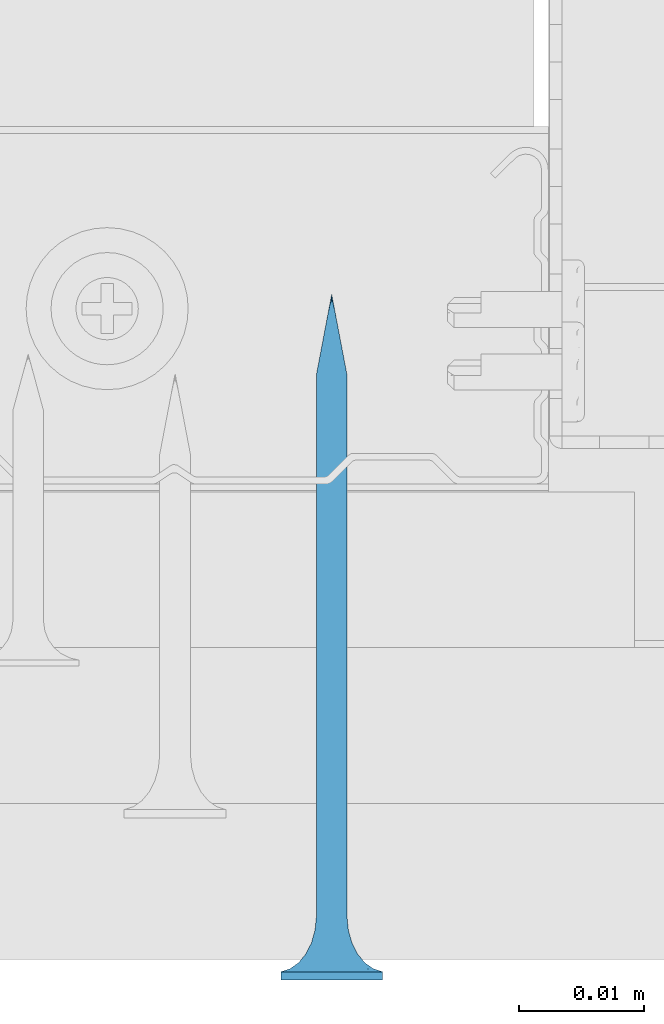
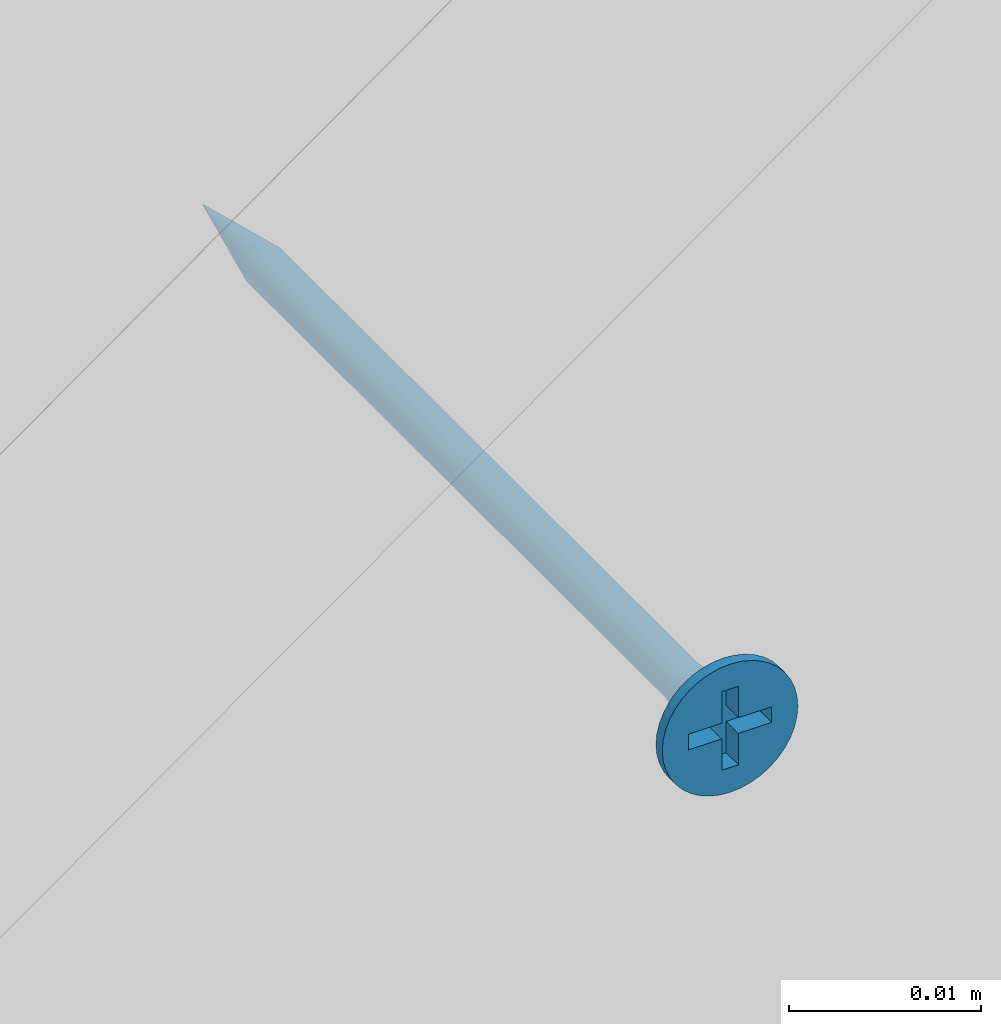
# One storey, part 37 of 48: 1 wall.
"""IFC2X3 building model written with IfcOpenShell, lengths in millimetres."""

from ifc_helpers import new_model, entity, si_unit, converted_unit, direction, frame, origin, origin_with_axes, place, context, project, spatial, faceted_brep, element, save


model = new_model("IFC2X3")

# Units and contexts
model_context = context("Model", 3, precision=1e-05, world=origin(), true_north=direction((0.0, 1.0, 0.0)))
ifc_project = project(units=[si_unit("LENGTHUNIT", "METRE", prefix="MILLI"), si_unit("AREAUNIT", "SQUARE_METRE"), si_unit("VOLUMEUNIT", "CUBIC_METRE"), converted_unit("PLANEANGLEUNIT", "DEGREE", entity("IfcPlaneAngleMeasure", 0.01745), si_unit("PLANEANGLEUNIT", "RADIAN"), dimensions=[0, 0, 0, 0, 0, 0, 0]), si_unit("SOLIDANGLEUNIT", "STERADIAN"), si_unit("MASSUNIT", "GRAM"), si_unit("TIMEUNIT", "SECOND"), si_unit("THERMODYNAMICTEMPERATUREUNIT", "DEGREE_CELSIUS"), si_unit("LUMINOUSINTENSITYUNIT", "LUMEN")], contexts=[model_context])

# Site, building, storey
site_placement = place(None, origin_with_axes())
site = spatial("IfcSite", under=ifc_project, at=site_placement, Name="Default Site", CompositionType="ELEMENT")
building_placement = place(site_placement, origin_with_axes())
building = spatial("IfcBuilding", under=site, at=building_placement, Name="Default Building", CompositionType="ELEMENT")
storey_placement = place(building_placement, origin_with_axes())
storey = spatial("IfcBuildingStorey", under=building, at=storey_placement, Name="Default Building Storey", CompositionType="ELEMENT", Elevation=0.0)

# Wall
wall_placement = place(storey_placement, frame((3284.109807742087, 6753.764107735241, 1148.30185318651), z_axis=(0.0, 0.0, -1.0), x_axis=(1.0, 4.718447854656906e-16, 0.0)))
element("IfcWall", 1, at=wall_placement, inside=storey, Name="Wkręt RIGIPS TN 55", context=model_context, shape_type="Brep", body=[
    faceted_brep([(-136.9005263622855, 4828.206294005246, 554.7035091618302), (-136.7358758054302, 4828.206294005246, 554.8044071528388), (-136.7358758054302, 4784.726408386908, 554.8044071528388), (-136.9005263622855, 4784.726408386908, 554.7035091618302), (-138.629605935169, 4828.206294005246, 556.1802826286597), (-138.629605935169, 4784.726408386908, 556.1802826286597), (-138.5557071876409, 4784.726408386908, 556.3586899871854), (-138.5557071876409, 4828.206294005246, 556.3586899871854), (-138.3293964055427, 4784.726408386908, 556.6701800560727), (-138.182556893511, 4784.726408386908, 556.7955928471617), (-138.182556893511, 4828.206294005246, 556.7955928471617), (-138.3293964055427, 4828.206294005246, 556.6701800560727), (-138.629605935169, 4828.206294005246, 555.4197173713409), (-138.629605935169, 4784.726408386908, 555.4197173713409), (-138.6746858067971, 4784.726408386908, 555.60748855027), (-138.6746858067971, 4828.206294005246, 555.60748855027), (-138.3293964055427, 4828.206294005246, 554.9298199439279), (-138.182556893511, 4828.206294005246, 554.8044071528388), (-138.182556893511, 4784.726408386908, 554.8044071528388), (-138.3293964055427, 4784.726408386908, 554.9298199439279), (-136.2888267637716, 4828.206294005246, 555.4197173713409), (-136.2888267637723, 4784.726408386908, 555.4197173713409), (-136.3627255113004, 4784.726408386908, 555.2413100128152), (-136.3627255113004, 4828.206294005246, 555.2413100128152), (-136.3627255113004, 4828.206294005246, 556.3586899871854), (-136.3627255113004, 4784.726408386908, 556.3586899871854), (-136.2888267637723, 4784.726408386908, 556.1802826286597), (-136.2888267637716, 4828.206294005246, 556.1802826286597), (-136.2437468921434, 4828.206294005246, 555.9925114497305), (-136.2437468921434, 4784.726408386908, 555.9925114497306), (-136.2285959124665, 4784.726408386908, 555.8000000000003), (-136.2285959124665, 4828.206294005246, 555.8000000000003), (-138.4548091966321, 4784.726408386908, 556.5233405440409), (-138.4548091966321, 4828.206294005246, 556.5233405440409), (-136.7358758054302, 4784.726408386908, 556.7955928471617), (-136.5890362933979, 4784.726408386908, 556.6701800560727), (-136.5890362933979, 4828.206294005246, 556.6701800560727), (-136.7358758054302, 4828.206294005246, 556.7955928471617), (-136.4636235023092, 4784.726408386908, 556.5233405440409), (-136.4636235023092, 4828.206294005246, 556.5233405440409), (-137.0789337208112, 4784.726408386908, 556.9703895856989), (-136.9005263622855, 4784.726408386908, 556.8964908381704), (-136.9005263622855, 4828.206294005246, 556.8964908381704), (-137.0789337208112, 4828.206294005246, 556.9703895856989), (-138.6746858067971, 4828.206294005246, 555.9925114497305), (-138.6746858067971, 4784.726408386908, 555.9925114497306), (-138.0179063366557, 4784.726408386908, 556.8964908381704), (-138.0179063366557, 4828.206294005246, 556.8964908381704), (-137.0789337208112, 4828.206294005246, 554.6296104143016), (-137.0789337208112, 4784.726408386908, 554.6296104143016), (-138.0179063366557, 4828.206294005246, 554.7035091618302), (-137.83949897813, 4828.206294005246, 554.6296104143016), (-137.83949897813, 4784.726408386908, 554.6296104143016), (-138.0179063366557, 4784.726408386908, 554.7035091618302), (-138.5557071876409, 4828.206294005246, 555.2413100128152), (-138.5557071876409, 4784.726408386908, 555.2413100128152), (-138.4548091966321, 4828.206294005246, 555.0766594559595), (-138.4548091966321, 4784.726408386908, 555.0766594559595), (-137.2667048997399, 4784.726408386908, 557.0154694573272), (-137.2667048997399, 4828.206294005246, 557.0154694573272), (-137.4592163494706, 4784.726408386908, 557.0306204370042), (-137.4592163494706, 4828.206294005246, 557.0306204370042), (-137.83949897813, 4784.726408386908, 556.9703895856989), (-137.83949897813, 4828.206294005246, 556.9703895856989), (-136.2437468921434, 4828.206294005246, 555.60748855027), (-136.2437468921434, 4784.726408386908, 555.60748855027), (-137.6517277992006, 4828.206294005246, 554.5845305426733), (-137.6517277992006, 4784.726408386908, 554.5845305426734), (-137.4592163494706, 4828.206294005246, 554.5693795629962), (-137.4592163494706, 4784.726408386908, 554.5693795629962), (-137.2667048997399, 4828.206294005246, 554.5845305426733), (-137.2667048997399, 4784.726408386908, 554.5845305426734), (-136.5890362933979, 4828.206294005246, 554.9298199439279), (-136.5890362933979, 4784.726408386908, 554.9298199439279), (-136.4636235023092, 4784.726408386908, 555.0766594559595), (-136.4636235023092, 4828.206294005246, 555.0766594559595), (-138.6898367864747, 4828.206294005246, 555.8000000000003), (-138.6898367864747, 4784.726408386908, 555.8000000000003), (-137.6517277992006, 4784.726408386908, 557.0154694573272), (-137.6517277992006, 4828.206294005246, 557.0154694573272), (-141.5377463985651, 4832.59805152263, 555.8000000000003), (-141.5377463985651, 4833.259713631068, 555.8000000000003), (-141.4875329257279, 4833.259713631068, 555.1619773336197), (-141.4875329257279, 4832.59805152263, 555.1619773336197), (-141.3381289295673, 4833.259713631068, 554.5396649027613), (-141.3381289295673, 4832.59805152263, 554.5396649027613), (-141.0932132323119, 4833.259713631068, 553.9483861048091), (-141.0932132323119, 4832.59805152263, 553.9483861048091), (-140.7588164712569, 4833.259713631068, 553.4027001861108), (-140.7588164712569, 4832.59805152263, 553.4027001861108), (-140.3431726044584, 4833.259713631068, 552.9160437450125), (-140.4541727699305, 4832.59805152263, 553.0314907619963), (-140.1080097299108, 4832.59805152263, 552.6986614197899), (-139.8565161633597, 4833.259713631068, 552.500399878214), (-139.7251262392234, 4832.59805152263, 552.4088262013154), (-139.3108302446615, 4833.259713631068, 552.1660031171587), (-139.3108302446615, 4832.59805152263, 552.1660031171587), (-138.8708651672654, 4832.59805152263, 551.9735584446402), (-138.7195514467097, 4833.259713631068, 551.9210874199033), (-138.4113302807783, 4832.59805152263, 551.8341600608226), (-137.9385961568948, 4832.59805152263, 551.7497404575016), (-138.0972390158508, 4833.259713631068, 551.7716834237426), (-137.4592163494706, 4833.259713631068, 551.7214699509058), (-137.4592163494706, 4832.59805152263, 551.7214699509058), (-136.8211936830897, 4833.259713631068, 551.7716834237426), (-136.8211936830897, 4832.59805152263, 551.7716834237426), (-136.1988812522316, 4833.259713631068, 551.9210874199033), (-136.1988812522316, 4832.59805152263, 551.9210874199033), (-135.6076024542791, 4833.259713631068, 552.1660031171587), (-135.6076024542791, 4832.59805152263, 552.1660031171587), (-135.0619165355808, 4833.259713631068, 552.500399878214), (-135.0619165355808, 4832.59805152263, 552.500399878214), (-134.5752600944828, 4833.259713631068, 552.9160437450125), (-134.5752600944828, 4832.59805152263, 552.9160437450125), (-134.1596162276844, 4833.259713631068, 553.4027001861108), (-134.1596162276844, 4832.59805152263, 553.4027001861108), (-133.8252194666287, 4833.259713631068, 553.9483861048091), (-133.8252194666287, 4832.59805152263, 553.9483861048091), (-133.5803037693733, 4833.259713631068, 554.5396649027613), (-133.5803037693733, 4832.59805152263, 554.5396649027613), (-133.4308997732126, 4833.259713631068, 556.4380226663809), (-133.4308997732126, 4832.59805152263, 556.4380226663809), (-133.3806863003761, 4832.59805152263, 555.8000000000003), (-133.3806863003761, 4833.259713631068, 555.8000000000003), (-133.4308997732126, 4832.59805152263, 555.1619773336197), (-133.4308997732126, 4833.259713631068, 555.1619773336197), (-133.5803037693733, 4833.259713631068, 557.0603350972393), (-133.5803037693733, 4832.59805152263, 557.0603350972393), (-133.8252194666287, 4833.259713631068, 557.6516138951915), (-133.8252194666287, 4832.59805152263, 557.6516138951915), (-134.1596162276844, 4833.259713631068, 558.1972998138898), (-134.1596162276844, 4832.59805152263, 558.1972998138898), (-134.5752600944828, 4833.259713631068, 558.6839562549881), (-134.5752600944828, 4832.59805152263, 558.6839562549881), (-135.0619165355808, 4833.259713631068, 559.0996001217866), (-135.0619165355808, 4832.59805152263, 559.0996001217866), (-135.6076024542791, 4833.259713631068, 559.4339968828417), (-135.6076024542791, 4832.59805152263, 559.4339968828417), (-136.1988812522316, 4833.259713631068, 559.6789125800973), (-136.1988812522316, 4832.59805152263, 559.6789125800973), (-136.8211936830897, 4833.259713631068, 559.8283165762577), (-136.8211936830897, 4832.59805152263, 559.8283165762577), (-137.4592163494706, 4833.259713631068, 559.8785300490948), (-137.4592163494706, 4832.59805152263, 559.8785300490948), (-138.0972390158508, 4833.259713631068, 559.8283165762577), (-138.0972390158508, 4832.59805152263, 559.8283165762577), (-138.7195514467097, 4833.259713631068, 559.6789125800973), (-138.7195514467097, 4832.59805152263, 559.6789125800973), (-139.3108302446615, 4833.259713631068, 559.4339968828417), (-139.3108302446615, 4832.59805152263, 559.4339968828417), (-139.8565161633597, 4833.259713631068, 559.0996001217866), (-139.8565161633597, 4832.59805152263, 559.0996001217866), (-140.3431726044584, 4833.259713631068, 558.6839562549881), (-140.3431726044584, 4832.59805152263, 558.6839562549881), (-140.7588164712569, 4833.259713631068, 558.1972998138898), (-140.7588164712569, 4832.59805152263, 558.1972998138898), (-141.0932132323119, 4833.259713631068, 557.6516138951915), (-141.0932132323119, 4832.59805152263, 557.6516138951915), (-141.3381289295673, 4833.259713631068, 557.0603350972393), (-141.3381289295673, 4832.59805152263, 557.0603350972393), (-141.4875329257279, 4833.259713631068, 556.4380226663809), (-141.4875329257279, 4832.59805152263, 556.4380226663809), (-137.8060615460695, 4829.281368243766, 554.5055560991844), (-137.4592163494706, 4829.281368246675, 554.4598930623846), (-138.1292698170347, 4829.281368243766, 554.6394333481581), (-138.4068150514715, 4829.281368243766, 554.8524012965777), (-138.6197830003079, 4829.281368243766, 555.1299465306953), (-138.7536602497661, 4829.281368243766, 555.4531548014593), (-138.7993232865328, 4829.281368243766, 555.7999999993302), (-138.7536602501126, 4829.281368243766, 556.1468451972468), (-138.6197830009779, 4829.281368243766, 556.4700534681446), (-138.4068150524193, 4829.281368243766, 556.7475987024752), (-138.1292698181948, 4829.281368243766, 556.9605666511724), (-137.8060615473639, 4829.281368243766, 557.0944439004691), (-137.4592163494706, 4829.281368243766, 557.1401069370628), (-137.1123711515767, 4829.281368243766, 557.0944439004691), (-136.7891628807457, 4829.281368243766, 556.9605666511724), (-136.5116176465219, 4829.281368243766, 556.7475987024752), (-136.2986496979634, 4829.281368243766, 556.4700534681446), (-136.1647724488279, 4829.281368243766, 556.1468451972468), (-136.1191094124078, 4829.281368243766, 555.7999999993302), (-136.1647724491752, 4829.281368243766, 555.4531548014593), (-136.2986496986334, 4829.281368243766, 555.1299465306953), (-136.5116176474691, 4829.281368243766, 554.8524012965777), (-136.7891628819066, 4829.281368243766, 554.6394333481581), (-137.112371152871, 4829.281368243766, 554.5055560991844), (-137.4592163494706, 4830.288222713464, 554.1737111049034), (-137.8801308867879, 4830.288222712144, 554.229125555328), (-138.2723607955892, 4830.288222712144, 554.3915925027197), (-138.6091762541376, 4830.288222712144, 554.6500400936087), (-138.8676238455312, 4830.288222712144, 554.9868555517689), (-139.0300907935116, 4830.288222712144, 555.3790854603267), (-139.0855052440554, 4830.288222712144, 555.7999999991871), (-139.0300907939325, 4830.288222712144, 556.220914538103), (-138.8676238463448, 4830.288222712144, 556.6131444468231), (-138.6091762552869, 4830.288222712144, 556.9499599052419), (-138.2723607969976, 4830.288222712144, 557.2084074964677), (-137.8801308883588, 4830.288222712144, 557.3708744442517), (-137.4592163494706, 4830.288222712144, 557.426288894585), (-137.0383018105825, 4830.288222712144, 557.3708744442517), (-136.6460719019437, 4830.288222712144, 557.2084074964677), (-136.3092564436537, 4830.288222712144, 556.9499599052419), (-136.0508088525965, 4830.288222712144, 556.6131444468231), (-135.8883419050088, 4830.288222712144, 556.220914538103), (-135.8329274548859, 4830.288222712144, 555.7999999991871), (-135.8883419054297, 4830.288222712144, 555.3790854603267), (-136.0508088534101, 4830.288222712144, 554.9868555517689), (-136.3092564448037, 4830.288222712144, 554.6500400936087), (-136.6460719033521, 4830.288222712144, 554.3915925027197), (-137.0383018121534, 4830.288222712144, 554.229125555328), (-137.4592163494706, 4831.168773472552, 553.7273431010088), (-137.9956594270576, 4831.168773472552, 553.7979671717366), (-138.4955447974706, 4831.168773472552, 554.0050264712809), (-138.9248060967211, 4831.168773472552, 554.3344102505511), (-139.2541898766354, 4831.168773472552, 554.763671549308), (-139.4612491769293, 4831.168773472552, 555.2635569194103), (-139.5318732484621, 4831.168773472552, 555.799999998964), (-139.4612491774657, 4831.168773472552, 556.3364430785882), (-139.2541898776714, 4831.168773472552, 556.8363284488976), (-138.9248060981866, 4831.168773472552, 557.2655897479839), (-138.4955447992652, 4831.168773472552, 557.594973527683), (-137.9956594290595, 4831.168773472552, 557.8020328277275), (-137.4592163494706, 4831.168773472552, 557.8726568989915), (-136.9227732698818, 4831.168773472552, 557.8020328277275), (-136.4228878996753, 4831.168773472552, 557.594973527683), (-135.993626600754, 4831.168773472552, 557.2655897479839), (-135.6642428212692, 4831.168773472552, 556.8363284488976), (-135.4571835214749, 4831.168773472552, 556.3364430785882), (-135.3865594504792, 4831.168773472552, 555.799999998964), (-135.4571835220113, 4831.168773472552, 555.2635569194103), (-135.6642428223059, 4831.168773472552, 554.763671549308), (-135.9936266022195, 4831.168773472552, 554.3344102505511), (-136.4228879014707, 4831.168773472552, 554.0050264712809), (-136.9227732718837, 4831.168773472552, 553.7979671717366), (-137.4592163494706, 4831.872222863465, 553.1465393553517), (-138.1459824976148, 4831.872222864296, 553.2369538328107), (-138.7859466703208, 4831.872222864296, 553.5020356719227), (-139.3354963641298, 4831.872222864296, 553.9237199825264), (-139.7571806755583, 4831.872222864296, 554.4732696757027), (-140.02226251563, 4831.872222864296, 555.1132338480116), (-140.1126769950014, 4831.872222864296, 555.7999999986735), (-140.0222625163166, 4831.872222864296, 556.4867661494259), (-139.7571806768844, 4831.872222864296, 557.1267303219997), (-139.335496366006, 4831.872222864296, 557.6762800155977), (-138.7859466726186, 4831.872222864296, 558.097964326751), (-138.1459825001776, 4831.872222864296, 558.363046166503), (-137.4592163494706, 4831.872222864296, 558.4534606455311), (-136.7724501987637, 4831.872222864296, 558.363046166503), (-136.1324860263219, 4831.872222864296, 558.097964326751), (-135.5829363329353, 4831.872222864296, 557.6762800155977), (-135.1612520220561, 4831.872222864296, 557.1267303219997), (-134.8961701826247, 4831.872222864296, 556.4867661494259), (-134.8057557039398, 4831.872222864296, 555.7999999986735), (-134.8961701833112, 4831.872222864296, 555.1132338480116), (-135.161252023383, 4831.872222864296, 554.4732696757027), (-135.5829363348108, 4831.872222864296, 553.9237199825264), (-136.1324860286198, 4831.872222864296, 553.5020356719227), (-136.7724502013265, 4831.872222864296, 553.2369538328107), (-137.4592163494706, 4832.35798993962, 552.4648055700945), (-138.3224281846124, 4832.357989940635, 552.578449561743), (-139.1268135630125, 4832.357989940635, 552.9116368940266), (-139.8175549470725, 4832.357989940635, 553.4416613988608), (-140.3475794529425, 4832.357989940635, 554.1324027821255), (-140.6807667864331, 4832.357989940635, 554.936788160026), (-140.7944107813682, 4832.357989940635, 555.7999999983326), (-140.6807667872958, 4832.357989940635, 556.663211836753), (-140.3475794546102, 4832.357989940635, 557.4675972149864), (-139.817554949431, 4832.357989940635, 558.1583385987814), (-139.1268135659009, 4832.357989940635, 558.6883631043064), (-138.3224281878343, 4832.357989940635, 559.0215504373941), (-137.4592163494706, 4832.357989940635, 559.1351944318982), (-136.5960045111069, 4832.357989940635, 559.0215504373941), (-135.7916191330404, 4832.357989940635, 558.6883631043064), (-135.1008777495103, 4832.357989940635, 558.1583385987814), (-134.5708532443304, 4832.357989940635, 557.4675972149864), (-134.2376659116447, 4832.357989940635, 556.663211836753), (-134.1240219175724, 4832.357989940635, 555.7999999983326), (-134.2376659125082, 4832.357989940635, 554.936788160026), (-134.570853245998, 4832.357989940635, 554.1324027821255), (-135.1008777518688, 4832.357989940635, 553.4416613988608), (-135.7916191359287, 4832.357989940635, 552.9116368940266), (-136.5960045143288, 4832.357989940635, 552.578449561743), (-137.4592163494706, 4778.259713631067, 555.8000000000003), (-139.9592163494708, 4833.259713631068, 556.3000000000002), (-137.9592163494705, 4833.259713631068, 556.3000000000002), (-139.9592163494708, 4833.259713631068, 555.3000000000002), (-137.9592163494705, 4833.259713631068, 555.3000000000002), (-137.9592163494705, 4833.259713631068, 553.3000000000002), (-136.9592163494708, 4833.259713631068, 553.3000000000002), (-136.9592163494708, 4833.259713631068, 555.3000000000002), (-134.9592163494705, 4833.259713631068, 555.3000000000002), (-134.9592163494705, 4833.259713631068, 556.3000000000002), (-136.9592163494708, 4833.259713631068, 556.3000000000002), (-136.9592163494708, 4833.259713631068, 558.3000000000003), (-137.9592163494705, 4833.259713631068, 558.3000000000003), (-136.9592163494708, 4831.988379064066, 556.3000000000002), (-134.9592163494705, 4831.988379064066, 556.3000000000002), (-134.9592163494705, 4831.988379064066, 555.3000000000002), (-136.9592163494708, 4831.988379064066, 555.3000000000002), (-136.9592163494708, 4831.988379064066, 553.3000000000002), (-137.9592163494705, 4831.988379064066, 553.3000000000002), (-137.9592163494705, 4831.988379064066, 555.3000000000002), (-139.9592163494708, 4831.988379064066, 555.3000000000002), (-139.9592163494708, 4831.988379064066, 556.3000000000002), (-137.9592163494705, 4831.988379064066, 556.3000000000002), (-137.9592163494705, 4831.988379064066, 558.3000000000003), (-136.9592163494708, 4831.988379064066, 558.3000000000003)], [[[0, 1, 2, 3]], [[4, 5, 6, 7]], [[8, 9, 10, 11]], [[12, 13, 14, 15]], [[16, 17, 18, 19]], [[20, 21, 22, 23]], [[24, 25, 26, 27]], [[28, 29, 30, 31]], [[7, 6, 32, 33]], [[34, 35, 36, 37]], [[36, 35, 38, 39]], [[40, 41, 42, 43]], [[44, 45, 5, 4]], [[9, 46, 47, 10]], [[41, 34, 37, 42]], [[48, 0, 3, 49]], [[33, 32, 8, 11]], [[50, 51, 52, 53]], [[54, 55, 13, 12]], [[56, 57, 55, 54]], [[58, 40, 43, 59]], [[60, 58, 59, 61]], [[16, 19, 57, 56]], [[17, 50, 53, 18]], [[39, 38, 25, 24]], [[46, 62, 63, 47]], [[64, 65, 21, 20]], [[51, 66, 67, 52]], [[66, 68, 69, 67]], [[68, 70, 71, 69]], [[1, 72, 73, 2]], [[23, 22, 74, 75]], [[27, 26, 29, 28]], [[76, 77, 45, 44]], [[75, 74, 73, 72]], [[31, 30, 65, 64]], [[78, 60, 61, 79]], [[62, 78, 79, 63]], [[70, 48, 49, 71]], [[15, 14, 77, 76]], [[80, 81, 82, 83]], [[84, 85, 83, 82]], [[86, 87, 85, 84]], [[87, 86, 88, 89]], [[88, 90, 89]], [[90, 91, 89]], [[92, 91, 93]], [[91, 90, 93]], [[93, 94, 92]], [[93, 95, 94]], [[95, 96, 94]], [[97, 96, 98]], [[96, 95, 98]], [[98, 99, 97]], [[100, 99, 101]], [[99, 98, 101]], [[101, 102, 100]], [[102, 103, 100]], [[103, 102, 104, 105]], [[106, 107, 105, 104]], [[108, 109, 107, 106]], [[109, 108, 110, 111]], [[112, 113, 111, 110]], [[113, 112, 114, 115]], [[116, 117, 115, 114]], [[118, 119, 117, 116]], [[120, 121, 122, 123]], [[123, 122, 124, 125]], [[119, 118, 125, 124]], [[126, 127, 121, 120]], [[128, 129, 127, 126]], [[129, 128, 130, 131]], [[132, 133, 131, 130]], [[133, 132, 134, 135]], [[136, 137, 135, 134]], [[138, 139, 137, 136]], [[139, 138, 140, 141]], [[142, 143, 141, 140]], [[143, 142, 144, 145]], [[146, 147, 145, 144]], [[148, 149, 147, 146]], [[149, 148, 150, 151]], [[152, 153, 151, 150]], [[153, 152, 154, 155]], [[156, 157, 155, 154]], [[158, 159, 157, 156]], [[159, 158, 160, 161]], [[81, 80, 161, 160]], [[162, 68, 66]], [[162, 163, 68]], [[66, 51, 162]], [[162, 51, 164]], [[50, 164, 51]], [[164, 50, 17]], [[17, 165, 164]], [[17, 16, 165]], [[166, 16, 56]], [[166, 165, 16]], [[56, 54, 166]], [[166, 54, 167]], [[12, 167, 54]], [[167, 12, 15]], [[15, 168, 167]], [[15, 76, 168]], [[169, 76, 44]], [[169, 168, 76]], [[44, 4, 169]], [[169, 4, 170]], [[7, 170, 4]], [[170, 7, 33]], [[33, 171, 170]], [[33, 11, 171]], [[172, 11, 10]], [[172, 171, 11]], [[10, 47, 172]], [[172, 47, 173]], [[63, 173, 47]], [[173, 63, 79]], [[79, 174, 173]], [[79, 61, 174]], [[175, 61, 59]], [[175, 174, 61]], [[59, 43, 175]], [[175, 43, 176]], [[42, 176, 43]], [[176, 42, 37]], [[37, 177, 176]], [[37, 36, 177]], [[178, 36, 39]], [[178, 177, 36]], [[39, 24, 178]], [[178, 24, 179]], [[27, 179, 24]], [[179, 27, 28]], [[28, 180, 179]], [[28, 31, 180]], [[181, 31, 64]], [[181, 180, 31]], [[64, 20, 181]], [[181, 20, 182]], [[23, 182, 20]], [[182, 23, 75]], [[75, 183, 182]], [[75, 72, 183]], [[184, 72, 1]], [[184, 183, 72]], [[1, 0, 184]], [[184, 0, 185]], [[48, 185, 0]], [[185, 48, 70]], [[70, 163, 185]], [[70, 68, 163]], [[186, 163, 187]], [[162, 187, 163]], [[164, 188, 187, 162]], [[165, 189, 188, 164]], [[166, 190, 189, 165]], [[167, 191, 190, 166]], [[168, 192, 191, 167]], [[169, 193, 192, 168]], [[170, 194, 193, 169]], [[171, 195, 194, 170]], [[172, 196, 195, 171]], [[173, 197, 196, 172]], [[174, 198, 197, 173]], [[175, 199, 198, 174]], [[176, 200, 199, 175]], [[177, 201, 200, 176]], [[178, 202, 201, 177]], [[179, 203, 202, 178]], [[180, 204, 203, 179]], [[181, 205, 204, 180]], [[182, 206, 205, 181]], [[183, 207, 206, 182]], [[184, 208, 207, 183]], [[185, 209, 208, 184]], [[185, 163, 209]], [[186, 209, 163]], [[210, 186, 211]], [[187, 211, 186]], [[188, 212, 211, 187]], [[189, 213, 212, 188]], [[190, 214, 213, 189]], [[191, 215, 214, 190]], [[192, 216, 215, 191]], [[193, 217, 216, 192]], [[194, 218, 217, 193]], [[195, 219, 218, 194]], [[196, 220, 219, 195]], [[197, 221, 220, 196]], [[198, 222, 221, 197]], [[199, 223, 222, 198]], [[200, 224, 223, 199]], [[201, 225, 224, 200]], [[202, 226, 225, 201]], [[203, 227, 226, 202]], [[204, 228, 227, 203]], [[205, 229, 228, 204]], [[206, 230, 229, 205]], [[207, 231, 230, 206]], [[208, 232, 231, 207]], [[209, 233, 232, 208]], [[209, 186, 233]], [[210, 233, 186]], [[234, 210, 235]], [[211, 235, 210]], [[212, 236, 235, 211]], [[213, 237, 236, 212]], [[214, 238, 237, 213]], [[215, 239, 238, 214]], [[216, 240, 239, 215]], [[217, 241, 240, 216]], [[218, 242, 241, 217]], [[219, 243, 242, 218]], [[220, 244, 243, 219]], [[221, 245, 244, 220]], [[222, 246, 245, 221]], [[223, 247, 246, 222]], [[224, 248, 247, 223]], [[225, 249, 248, 224]], [[226, 250, 249, 225]], [[227, 251, 250, 226]], [[228, 252, 251, 227]], [[229, 253, 252, 228]], [[230, 254, 253, 229]], [[231, 255, 254, 230]], [[232, 256, 255, 231]], [[233, 257, 256, 232]], [[233, 210, 257]], [[234, 257, 210]], [[258, 99, 100]], [[258, 259, 99]], [[100, 103, 258]], [[258, 234, 259]], [[235, 259, 234]], [[259, 96, 97]], [[259, 260, 96]], [[97, 99, 259]], [[236, 260, 259, 235]], [[261, 91, 92]], [[260, 92, 94]], [[260, 261, 92]], [[94, 96, 260]], [[237, 261, 260, 236]], [[262, 87, 89]], [[89, 261, 262]], [[89, 91, 261]], [[238, 262, 261, 237]], [[85, 87, 263]], [[262, 263, 87]], [[239, 263, 262, 238]], [[263, 80, 83]], [[263, 264, 80]], [[83, 85, 263]], [[240, 264, 263, 239]], [[265, 159, 161]], [[161, 264, 265]], [[161, 80, 264]], [[241, 265, 264, 240]], [[265, 266, 157, 159]], [[242, 266, 265, 241]], [[266, 153, 155]], [[266, 267, 153]], [[155, 157, 266]], [[243, 267, 266, 242]], [[268, 149, 151]], [[151, 267, 268]], [[151, 153, 267]], [[244, 268, 267, 243]], [[268, 269, 147, 149]], [[245, 269, 268, 244]], [[269, 143, 145]], [[269, 270, 143]], [[145, 147, 269]], [[246, 270, 269, 245]], [[271, 139, 141]], [[141, 270, 271]], [[141, 143, 270]], [[247, 271, 270, 246]], [[271, 272, 137, 139]], [[248, 272, 271, 247]], [[272, 133, 135]], [[272, 273, 133]], [[135, 137, 272]], [[249, 273, 272, 248]], [[274, 129, 131]], [[131, 273, 274]], [[131, 133, 273]], [[250, 274, 273, 249]], [[274, 275, 127, 129]], [[251, 275, 274, 250]], [[275, 122, 121]], [[275, 276, 122]], [[121, 127, 275]], [[252, 276, 275, 251]], [[277, 119, 124]], [[124, 276, 277]], [[124, 122, 276]], [[253, 277, 276, 252]], [[117, 119, 278]], [[277, 278, 119]], [[254, 278, 277, 253]], [[278, 113, 115]], [[278, 279, 113]], [[115, 117, 278]], [[255, 279, 278, 254]], [[280, 109, 111]], [[111, 279, 280]], [[111, 113, 279]], [[256, 280, 279, 255]], [[107, 109, 281]], [[280, 281, 109]], [[257, 281, 280, 256]], [[257, 234, 281]], [[258, 281, 234]], [[281, 103, 105]], [[281, 258, 103]], [[105, 107, 281]], [[14, 13, 282]], [[282, 77, 14]], [[13, 55, 282]], [[57, 19, 282]], [[282, 55, 57]], [[18, 53, 282]], [[282, 19, 18]], [[53, 52, 282]], [[67, 69, 282]], [[282, 52, 67]], [[71, 49, 282]], [[282, 69, 71]], [[49, 3, 282]], [[2, 73, 282]], [[282, 3, 2]], [[74, 22, 282]], [[282, 73, 74]], [[22, 21, 282]], [[65, 30, 282]], [[282, 21, 65]], [[29, 26, 282]], [[282, 30, 29]], [[26, 25, 282]], [[38, 35, 282]], [[282, 25, 38]], [[34, 41, 282]], [[282, 35, 34]], [[41, 40, 282]], [[58, 60, 282]], [[282, 40, 58]], [[78, 62, 282]], [[282, 60, 78]], [[62, 46, 282]], [[9, 8, 282]], [[282, 46, 9]], [[32, 6, 282]], [[282, 8, 32]], [[6, 5, 282]], [[45, 77, 282]], [[282, 5, 45]], [[283, 156, 154, 284]], [[283, 285, 286, 287, 288, 289, 290, 291, 292, 293, 294, 284, 154, 152, 150, 148, 146, 144, 142, 140, 138, 136, 134, 132, 130, 128, 126, 120, 123, 125, 118, 116, 114, 112, 110, 108, 106, 104, 102, 101, 98, 95, 93, 90, 88, 86, 84, 82, 81, 160, 158, 156]], [[295, 296, 297, 298, 299, 300, 301, 302, 303, 304, 305, 306]], [[297, 290, 289, 298]], [[296, 291, 290, 297]], [[295, 292, 291, 296]], [[306, 293, 292, 295]], [[305, 294, 293, 306]], [[304, 284, 294, 305]], [[303, 283, 284, 304]], [[302, 285, 283, 303]], [[301, 286, 285, 302]], [[300, 287, 286, 301]], [[299, 288, 287, 300]], [[298, 289, 288, 299]]]),
])

save(model, "model.ifc")
